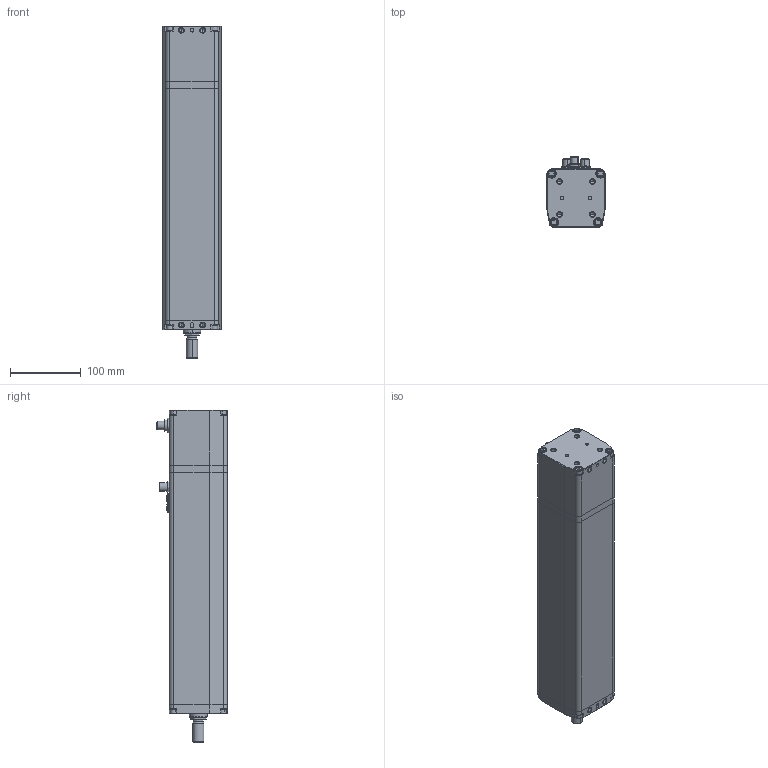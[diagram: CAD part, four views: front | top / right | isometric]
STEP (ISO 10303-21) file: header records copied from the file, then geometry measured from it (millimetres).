
FILE_DESCRIPTION (( 'STEP AP203' ), '1' );
FILE_NAME ('CTC-080-K__-____-_.step', '2023-09-29T10:04:40', ( '' ), ( '' ), 'SwSTEP 2.0', 'SolidWorks 2020', '' );
FILE_SCHEMA (( 'CONFIG_CONTROL_DESIGN' ));
Length unit declared in the file: millimetre
Products named in the file (4): CTC-080_Schubrohr_Hub 0250; CTC-080_housing_Hub_0250_Bremse; CTC-080-K__-____-_; CTC-080_Aufsatz-A_M16x1.5
Assembly tree (3 placements, depth 2):
  CTC-080-K__-____-_
    CTC-080_housing_Hub_0250_Bremse
    CTC-080_Schubrohr_Hub 0250
    CTC-080_Aufsatz-A_M16x1.5
Bounding box: 82 x 99.6 x 469 mm (x, y, z)
Volume: 2571712 mm3; surface area: 318102.6 mm2
Topology: 34 solids, 34 shells, 860 faces, 1914 edges, 1187 vertices
Faces by surface type: cylinder 338, plane 326, cone 100, torus 88, sphere 8
Entity records: 24204 total; most frequent: DIRECTION 4484, CARTESIAN_POINT 4163, ORIENTED_EDGE 3780, EDGE_CURVE 1890, AXIS2_PLACEMENT_3D 1776, VERTEX_POINT 1187, EDGE_LOOP 957, LINE 932
